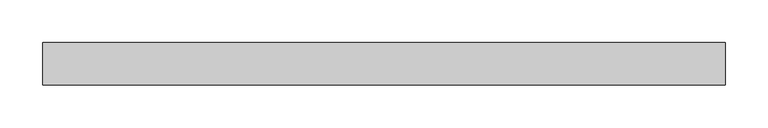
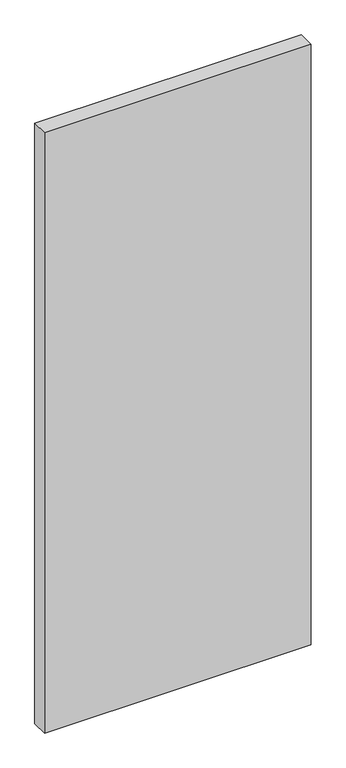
"""IFC4 building model written with IfcOpenShell, lengths in millimetres: plate geometry, Системная панель : Стекло(50мм)."""

from ifc_helpers import new_model, si_unit, origin, origin_with_axes, place, context, project, spatial, polyline, outline, extrude, source, transform, mapped, element, save


def plate_111b1b22(model_context):
    return source(origin(), model_context, "Body", "SweptSolid", [
        extrude(outline(polyline([(399.4474027, -25.0), (-399.4474027, -25.0), (-399.4474027, 25.0), (399.4474027, 25.0), (399.4474027, -25.0)])), origin_with_axes(), (0.0, 0.0, 1.0), 1900.0),
    ])


if __name__ == "__main__":
    model = new_model("IFC4")
    model_context = context("Model", 3, world=origin())
    ifc_project = project(units=[si_unit("LENGTHUNIT", "METRE", prefix="MILLI")], contexts=[model_context])
    site = spatial("IfcSite", under=ifc_project)
    building = spatial("IfcBuilding", under=site)
    placement = place(None, origin())
    plate_shape = plate_111b1b22(model_context)
    element("IfcPlate", 1, ObjectType="Системная панель : Стекло(50мм)", at=placement, inside=building, context=model_context, shape_type="MappedRepresentation", body=[
        mapped(plate_shape, transform((0.0, 0.0, 0.0), x_axis=(1.0, 0.0, 0.0), y_axis=(0.0, 1.0, 0.0), z_axis=(0.0, 0.0, 1.0))),
    ])
    save(model, "model.ifc")
